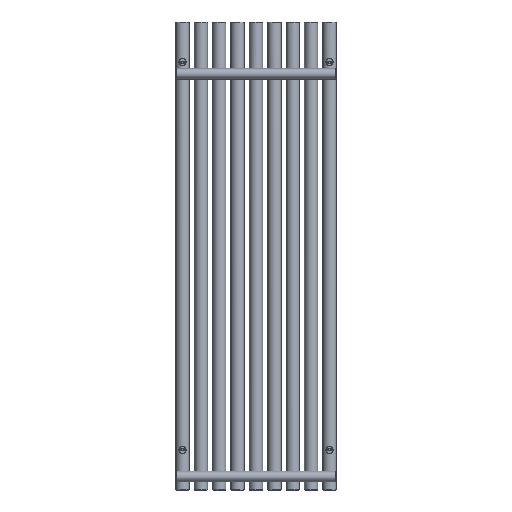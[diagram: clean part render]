
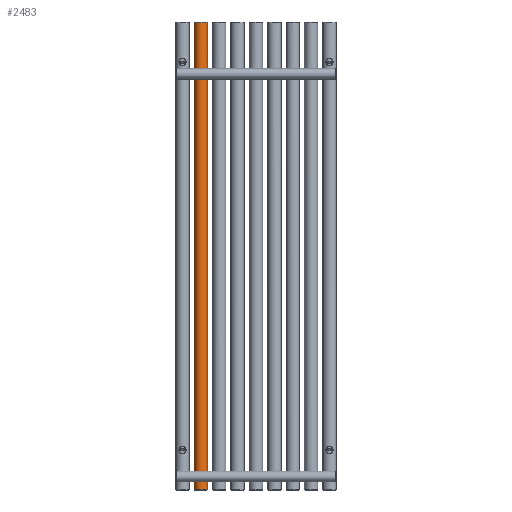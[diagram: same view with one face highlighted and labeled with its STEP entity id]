
A CAD part, front view. The second image highlights one B-rep face of the part: STEP entity #2483.
In plain terms, the highlighted cylindrical face has radius 20 mm (diameter 40 mm), a full revolution.
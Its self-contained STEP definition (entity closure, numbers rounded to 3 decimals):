
#187=FACE_BOUND('',#599,.T.);
#188=FACE_BOUND('',#600,.T.);
#230=LINE('',#4474,#308);
#308=VECTOR('',#3076,20.);
#386=CYLINDRICAL_SURFACE('',#2698,20.);
#423=FACE_OUTER_BOUND('',#598,.T.);
#598=EDGE_LOOP('',(#1735,#1736,#1737,#1738,#1739));
#599=EDGE_LOOP('',(#1740));
#600=EDGE_LOOP('',(#1741));
#810=B_SPLINE_CURVE_WITH_KNOTS('',3,(#4449,#4450,#4451,#4452,#4453,#4454,
#4455,#4456,#4457,#4458,#4459,#4460,#4461,#4462,#4463,#4464,#4465,#4466,
#4467,#4468),.UNSPECIFIED.,.T.,.F.,(4,1,1,1,1,1,1,1,1,1,1,1,1,1,1,1,1,4),
(-5.132,-4.765,-4.399,-3.91,
-3.788,-3.666,-3.421,-3.177,
-2.933,-2.444,-2.199,-1.955,
-1.711,-1.466,-1.1,-0.733,
-0.367,0.),.UNSPECIFIED.);
#811=B_SPLINE_CURVE_WITH_KNOTS('',3,(#4478,#4479,#4480,#4481,#4482,#4483,
#4484,#4485,#4486,#4487,#4488,#4489,#4490,#4491,#4492,#4493,#4494,#4495,
#4496,#4497),.UNSPECIFIED.,.T.,.F.,(4,1,1,1,1,1,1,1,1,1,1,1,1,1,1,1,1,4),
(-5.132,-4.765,-4.399,-3.91,
-3.788,-3.666,-3.421,-3.177,
-2.933,-2.444,-2.199,-1.955,-1.711,
-1.466,-1.1,-0.733,-0.367,
0.),.UNSPECIFIED.);
#877=CIRCLE('',#2699,20.);
#878=CIRCLE('',#2700,20.);
#879=CIRCLE('',#2701,20.);
#1089=VERTEX_POINT('',#4447);
#1090=VERTEX_POINT('',#4470);
#1091=VERTEX_POINT('',#4471);
#1092=VERTEX_POINT('',#4473);
#1093=VERTEX_POINT('',#4477);
#1349=EDGE_CURVE('',#1089,#1089,#810,.T.);
#1350=EDGE_CURVE('',#1090,#1091,#877,.T.);
#1351=EDGE_CURVE('',#1090,#1092,#230,.T.);
#1352=EDGE_CURVE('',#1092,#1092,#878,.T.);
#1353=EDGE_CURVE('',#1091,#1090,#879,.T.);
#1354=EDGE_CURVE('',#1093,#1093,#811,.T.);
#1735=ORIENTED_EDGE('',*,*,#1350,.F.);
#1736=ORIENTED_EDGE('',*,*,#1351,.T.);
#1737=ORIENTED_EDGE('',*,*,#1352,.F.);
#1738=ORIENTED_EDGE('',*,*,#1351,.F.);
#1739=ORIENTED_EDGE('',*,*,#1353,.F.);
#1740=ORIENTED_EDGE('',*,*,#1354,.F.);
#1741=ORIENTED_EDGE('',*,*,#1349,.F.);
#2483=ADVANCED_FACE('',(#423,#187,#188),#386,.T.);
#2698=AXIS2_PLACEMENT_3D('',#4469,#3072,#3073);
#2699=AXIS2_PLACEMENT_3D('',#4472,#3074,#3075);
#2700=AXIS2_PLACEMENT_3D('',#4475,#3077,#3078);
#2701=AXIS2_PLACEMENT_3D('',#4476,#3079,#3080);
#3072=DIRECTION('center_axis',(0.,0.,1.));
#3073=DIRECTION('ref_axis',(-1.,0.,0.));
#3074=DIRECTION('center_axis',(0.,0.,1.));
#3075=DIRECTION('ref_axis',(-1.,0.,0.));
#3076=DIRECTION('',(0.,0.,-1.));
#3077=DIRECTION('center_axis',(0.,0.,-1.));
#3078=DIRECTION('ref_axis',(-1.,0.,0.));
#3079=DIRECTION('center_axis',(0.,0.,1.));
#3080=DIRECTION('ref_axis',(-1.,0.,0.));
#4447=CARTESIAN_POINT('',(-385.,-20.,50.1));
#4449=CARTESIAN_POINT('Ctrl Pts',(-385.,-20.,50.1));
#4450=CARTESIAN_POINT('Ctrl Pts',(-386.611,-20.,50.1));
#4451=CARTESIAN_POINT('Ctrl Pts',(-389.831,-19.609,49.581));
#4452=CARTESIAN_POINT('Ctrl Pts',(-394.316,-17.862,46.748));
#4453=CARTESIAN_POINT('Ctrl Pts',(-396.001,-16.692,42.52));
#4454=CARTESIAN_POINT('Ctrl Pts',(-395.992,-16.71,39.163));
#4455=CARTESIAN_POINT('Ctrl Pts',(-395.668,-16.917,36.969));
#4456=CARTESIAN_POINT('Ctrl Pts',(-394.648,-17.555,34.431));
#4457=CARTESIAN_POINT('Ctrl Pts',(-392.535,-18.589,32.082));
#4458=CARTESIAN_POINT('Ctrl Pts',(-388.836,-19.82,30.087));
#4459=CARTESIAN_POINT('Ctrl Pts',(-384.419,-20.202,29.641));
#4460=CARTESIAN_POINT('Ctrl Pts',(-380.239,-19.503,30.58));
#4461=CARTESIAN_POINT('Ctrl Pts',(-377.466,-18.591,32.084));
#4462=CARTESIAN_POINT('Ctrl Pts',(-375.351,-17.553,34.428));
#4463=CARTESIAN_POINT('Ctrl Pts',(-373.927,-16.66,37.981));
#4464=CARTESIAN_POINT('Ctrl Pts',(-373.921,-16.659,42.599));
#4465=CARTESIAN_POINT('Ctrl Pts',(-376.137,-18.052,47.027));
#4466=CARTESIAN_POINT('Ctrl Pts',(-380.165,-19.6,49.585));
#4467=CARTESIAN_POINT('Ctrl Pts',(-383.389,-20.,50.1));
#4468=CARTESIAN_POINT('Ctrl Pts',(-385.,-20.,50.1));
#4469=CARTESIAN_POINT('Origin',(-385.,0.,0.));
#4470=CARTESIAN_POINT('',(-365.,0.,1398.));
#4471=CARTESIAN_POINT('',(-405.,0.,1398.));
#4472=CARTESIAN_POINT('Origin',(-385.,0.,1398.));
#4473=CARTESIAN_POINT('',(-365.,0.,2.));
#4474=CARTESIAN_POINT('',(-365.,0.,0.));
#4475=CARTESIAN_POINT('Origin',(-385.,0.,2.));
#4476=CARTESIAN_POINT('Origin',(-385.,0.,1398.));
#4477=CARTESIAN_POINT('',(-385.,-20.,1255.1));
#4478=CARTESIAN_POINT('Ctrl Pts',(-385.,-20.,1255.1));
#4479=CARTESIAN_POINT('Ctrl Pts',(-386.611,-20.,1255.1));
#4480=CARTESIAN_POINT('Ctrl Pts',(-389.831,-19.61,1254.581));
#4481=CARTESIAN_POINT('Ctrl Pts',(-394.316,-17.862,1251.749));
#4482=CARTESIAN_POINT('Ctrl Pts',(-396.002,-16.691,1247.521));
#4483=CARTESIAN_POINT('Ctrl Pts',(-395.992,-16.709,1244.164));
#4484=CARTESIAN_POINT('Ctrl Pts',(-395.668,-16.917,1241.97));
#4485=CARTESIAN_POINT('Ctrl Pts',(-394.649,-17.554,1239.432));
#4486=CARTESIAN_POINT('Ctrl Pts',(-392.536,-18.588,1237.083));
#4487=CARTESIAN_POINT('Ctrl Pts',(-388.836,-19.819,1235.088));
#4488=CARTESIAN_POINT('Ctrl Pts',(-384.419,-20.201,1234.641));
#4489=CARTESIAN_POINT('Ctrl Pts',(-380.24,-19.502,1235.581));
#4490=CARTESIAN_POINT('Ctrl Pts',(-377.467,-18.59,1237.084));
#4491=CARTESIAN_POINT('Ctrl Pts',(-375.351,-17.552,1239.428));
#4492=CARTESIAN_POINT('Ctrl Pts',(-373.927,-16.659,1242.981));
#4493=CARTESIAN_POINT('Ctrl Pts',(-373.921,-16.659,1247.599));
#4494=CARTESIAN_POINT('Ctrl Pts',(-376.137,-18.052,1252.028));
#4495=CARTESIAN_POINT('Ctrl Pts',(-380.165,-19.6,1254.585));
#4496=CARTESIAN_POINT('Ctrl Pts',(-383.389,-20.,1255.1));
#4497=CARTESIAN_POINT('Ctrl Pts',(-385.,-20.,1255.1));
